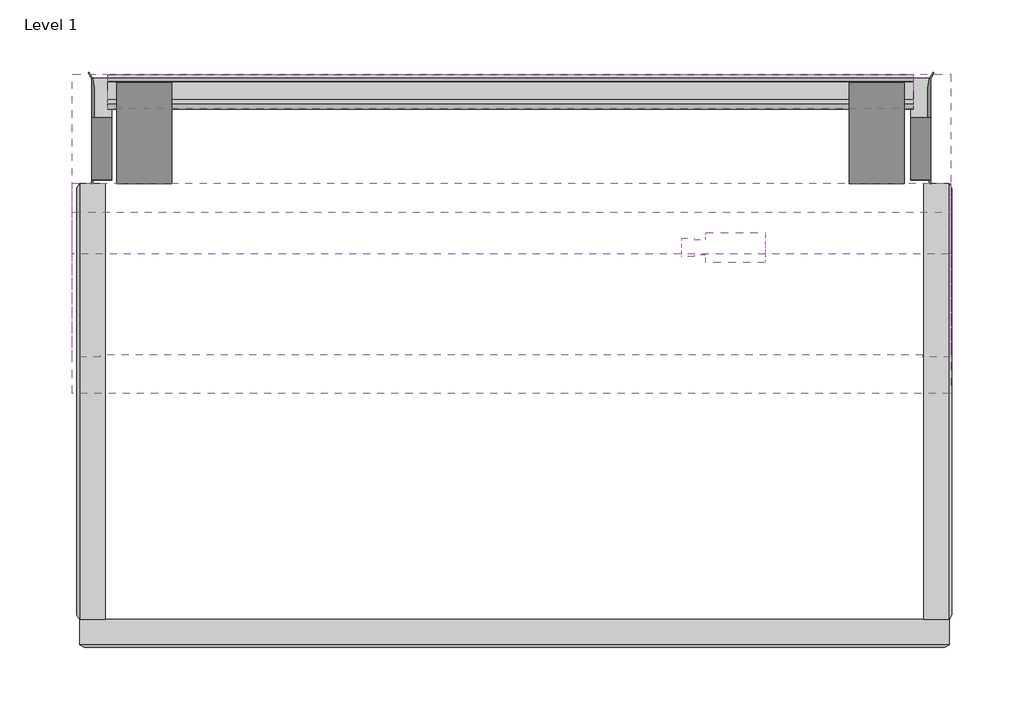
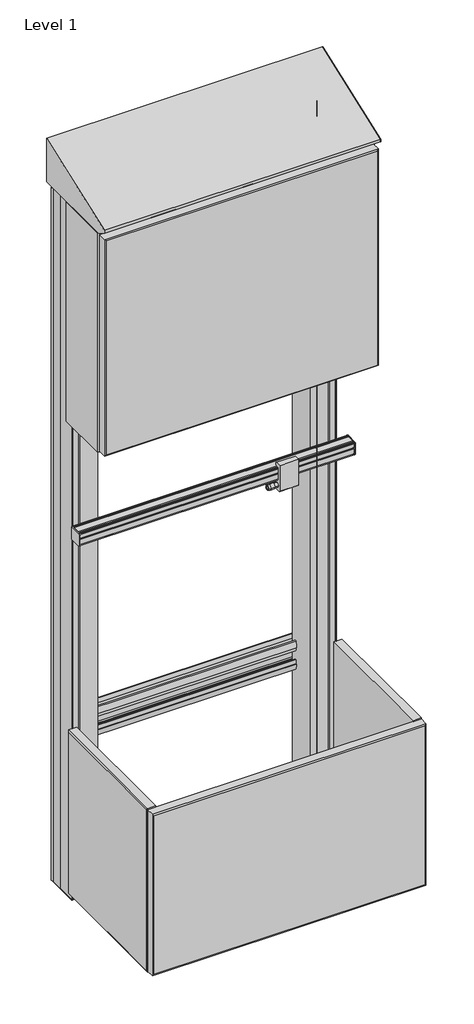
# One storey, incomplete: 11 furniture elements.
"""IFC4 building model written with IfcOpenShell, lengths in millimetres."""

from ifc_helpers import new_model, si_unit, origin, place, context, project, spatial, transform, mapped, element, save
from components import furniture_ef070875, furniture_40a82fad, furniture_6843582d, furniture_dbdca328, furniture_71b0f415, furniture_ccfcee1f, furniture_94686434, furniture_69853d74, furniture_40b55c4c, rail_clamp_bc9ce31f

model = new_model("IFC4")

# Units and contexts
model_context = context("Model", 3, world=origin())
ifc_project = project(units=[si_unit("LENGTHUNIT", "METRE", prefix="MILLI")], contexts=[model_context])

# Site, building, storey
site = spatial("IfcSite", under=ifc_project)
building = spatial("IfcBuilding", under=site)
storey = spatial("IfcBuildingStorey", under=building, Name="Level 1", Elevation=0.0)

# Furniture
placement = place(None, origin())
furniture_shape = furniture_ef070875(model_context)
element("IfcFurniture", 1, ObjectType="HermanMiller_Compass_TW400_Close-OutSide : 89\"H Right No Cutouts Use W/64H Sloped Cab Top", at=placement, inside=storey, context=model_context, shape_type="MappedRepresentation", body=[
    mapped(furniture_shape, transform((513.3401627, -48.8930324, 0.0), x_axis=(1.0, 0.0, 0.0), y_axis=(0.0, 1.0, 0.0), z_axis=(0.0, 0.0, 1.0))),
])
furniture_2_shape = furniture_40a82fad(model_context)
element("IfcFurniture", 2, ObjectType="HermanMiller_Compass_TW400_Close-OutSide : 89\"H Left  No Cutouts Use W/64H Sloped Cab Top", at=placement, inside=storey, context=model_context, shape_type="MappedRepresentation", body=[
    mapped(furniture_2_shape, transform((-54.7670323, -48.8892056, 0.0), x_axis=(1.0, 0.0, 0.0), y_axis=(0.0, 1.0, 0.0), z_axis=(0.0, 0.0, 1.0))),
])
furniture_3_shape = furniture_6843582d(model_context)
element("IfcFurniture", 3, ObjectType="HermanMiller_Compass_TW406_Close-OutSlopedCabinetTop : 06\"D x 24\"W", at=placement, inside=storey, context=model_context, shape_type="MappedRepresentation", body=[
    mapped(furniture_3_shape, transform((235.8769751, 21.7285887, 0.0), x_axis=(1.0, 0.0, 0.0), y_axis=(0.0, 1.0, 0.0), z_axis=(0.0, 0.0, 1.0))),
])
furniture_4_shape = furniture_dbdca328(model_context)
element("IfcFurniture", 4, ObjectType="HermanMiller_Compass_TW324_PaperTowelCabinet : 20\"H x 6\"D x 24\"W Durawrap R", at=placement, inside=storey, context=model_context, shape_type="MappedRepresentation", body=[
    mapped(furniture_4_shape, transform((235.8769751, -75.52944, 0.0), x_axis=(1.0, 0.0, 0.0), y_axis=(0.0, 1.0, 0.0), z_axis=(0.0, 0.0, 1.0))),
])
furniture_5_shape = furniture_71b0f415(model_context)
element("IfcFurniture", 5, ObjectType="HermanMiller_Compass_TW232_SinkEnclosure : 13\"D x 24\"W Durawrap", at=placement, inside=storey, context=model_context, shape_type="MappedRepresentation", body=[
    mapped(furniture_5_shape, transform((237.9106424, -53.77688, 0.0), x_axis=(1.0, 0.0, 0.0), y_axis=(0.0, 1.0, 0.0), z_axis=(0.0, 0.0, 1.0))),
])
furniture_6_shape = furniture_ccfcee1f(model_context)
element("IfcFurniture", 6, ObjectType="HermanMiller_Compass_TW100_WallRail : 24W x 69H Upper Position", at=placement, inside=storey, context=model_context, shape_type="MappedRepresentation", body=[
    mapped(furniture_6_shape, transform((254.0, -11.90625, 0.0), x_axis=(1.0, 0.0, 0.0), y_axis=(0.0, 1.0, 0.0), z_axis=(0.0, 0.0, 1.0))),
])
furniture_7_shape = furniture_94686434(model_context)
element("IfcFurniture", 7, ObjectType="HermanMiller_Compass_TW100_WallRail : 24W x 69H Upper Position", at=placement, inside=storey, context=model_context, shape_type="MappedRepresentation", body=[
    mapped(furniture_7_shape, transform((254.0, -11.90625, 0.0), x_axis=(1.0, 0.0, 0.0), y_axis=(0.0, 1.0, 0.0), z_axis=(0.0, 0.0, 1.0))),
])
furniture_8_shape = furniture_69853d74(model_context)
element("IfcFurniture", 8, ObjectType="HermanMiller_Compass_TW700_AccessoryRail : 24\"W", at=placement, inside=storey, context=model_context, shape_type="MappedRepresentation", body=[
    mapped(furniture_8_shape, transform((254.61468, -110.0120037, 0.0), x_axis=(1.0, 0.0, 0.0), y_axis=(0.0, 1.0, 0.0), z_axis=(0.0, 0.0, 1.0))),
])
furniture_9_shape = furniture_40b55c4c(model_context)
element("IfcFurniture", 9, ObjectType="HermanMiller_Compass_TW110_Stile_RailAttached : 64\"H", at=placement, inside=storey, context=model_context, shape_type="MappedRepresentation", body=[
    mapped(furniture_9_shape, transform((0.0, -31.0832668, 0.0), x_axis=(1.0, 0.0, 0.0), y_axis=(0.0, 1.0, 0.0), z_axis=(0.0, 0.0, 1.0))),
])
element("IfcFurniture", 10, ObjectType="HermanMiller_Compass_TW110_Stile_RailAttached : 64\"H", at=placement, inside=storey, context=model_context, shape_type="MappedRepresentation", body=[
    mapped(furniture_9_shape, transform((508.0, -31.0832668, 0.0), x_axis=(1.0, 0.0, 0.0), y_axis=(0.0, 1.0, 0.0), z_axis=(0.0, 0.0, 1.0))),
])
rail_clamp_shape = rail_clamp_bc9ce31f(model_context)
element("IfcFurniture", 11, ObjectType="HermanMiller_Compass_TW705_UniversalRailClamp : Rail Clamp", at=placement, inside=storey, context=model_context, shape_type="MappedRepresentation", body=[
    mapped(rail_clamp_shape, transform((410.0449, -78.7135676, 0.0), x_axis=(1.0, 0.0, 0.0), y_axis=(0.0, 1.0, 0.0), z_axis=(0.0, 0.0, 1.0))),
])

save(model, "model.ifc")
